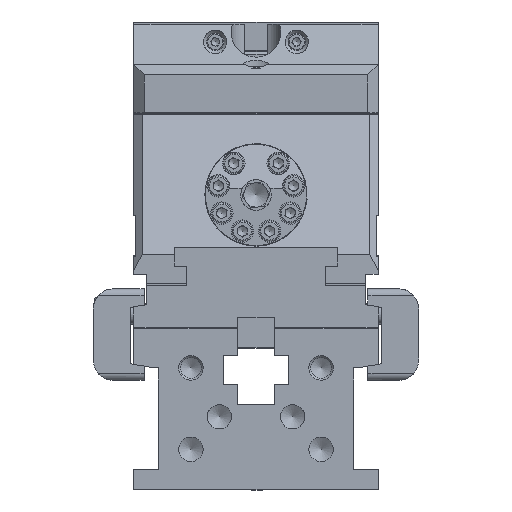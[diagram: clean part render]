
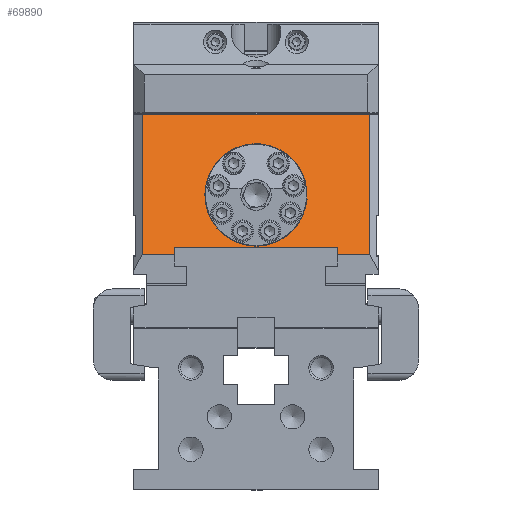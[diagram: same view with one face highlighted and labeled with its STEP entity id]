
A CAD part, left-side view. The second image highlights one B-rep face of the part: STEP entity #69890.
In plain terms, the highlighted planar face has unit normal (-0.866, 0, 0.5).
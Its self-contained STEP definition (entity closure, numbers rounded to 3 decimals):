
#65784=CARTESIAN_POINT('',(-147.276,0.,119.85));
#65785=VERTEX_POINT('',#65784);
#65786=CARTESIAN_POINT('',(-147.276,0.,119.85));
#65787=CARTESIAN_POINT('',(-147.276,50.3,119.85));
#65788=CARTESIAN_POINT('',(-118.236,50.3,170.15));
#65789=CARTESIAN_POINT('',(-118.236,0.,170.15));
#65790=CARTESIAN_POINT('',(-118.236,-50.3,170.15));
#65791=CARTESIAN_POINT('',(-147.276,-50.3,119.85));
#65792=CARTESIAN_POINT('',(-147.276,0.,119.85));
#65800=(BOUNDED_CURVE()B_SPLINE_CURVE(3,(#65786,#65787,#65788,#65789,#65790,#65791,#65792),.UNSPECIFIED.,.T.,.U.)B_SPLINE_CURVE_WITH_KNOTS((4,3,4),(0.0,0.5,1.0),.UNSPECIFIED.)CURVE()GEOMETRIC_REPRESENTATION_ITEM()RATIONAL_B_SPLINE_CURVE((1.0,0.333,0.333,1.0,0.333,0.333,1.0))REPRESENTATION_ITEM(''));
#65801=EDGE_CURVE('',#65785,#65785,#65800,.T.);
#66955=CARTESIAN_POINT('',(-109.918,-56.,184.556));
#66956=VERTEX_POINT('',#66955);
#66963=CARTESIAN_POINT('',(-149.662,-56.,115.718));
#66964=VERTEX_POINT('',#66963);
#66965=CARTESIAN_POINT('',(-149.662,-56.,115.718));
#66966=DIRECTION('',(0.5,0.,0.866));
#66967=VECTOR('',#66966,1.);
#66968=LINE('',#66965,#66967);
#66969=EDGE_CURVE('',#66964,#66956,#66968,.T.);
#69543=CARTESIAN_POINT('',(-147.767,-20.,119.));
#69544=VERTEX_POINT('',#69543);
#69545=CARTESIAN_POINT('',(-147.767,-40.,119.));
#69546=VERTEX_POINT('',#69545);
#69547=CARTESIAN_POINT('',(-147.767,-20.,119.));
#69548=DIRECTION('',(0.,-1.0,0.0));
#69549=VECTOR('',#69548,1.0);
#69550=LINE('',#69547,#69549);
#69551=EDGE_CURVE('',#69544,#69546,#69550,.T.);
#69574=CARTESIAN_POINT('',(-149.662,40.,115.718));
#69575=VERTEX_POINT('',#69574);
#69576=CARTESIAN_POINT('',(-149.662,56.,115.718));
#69577=VERTEX_POINT('',#69576);
#69578=CARTESIAN_POINT('',(-149.662,40.,115.718));
#69579=DIRECTION('',(0.0,1.0,0.0));
#69580=VECTOR('',#69579,1.0);
#69581=LINE('',#69578,#69580);
#69582=EDGE_CURVE('',#69575,#69577,#69581,.T.);
#69656=CARTESIAN_POINT('',(-149.662,-40.,115.718));
#69657=VERTEX_POINT('',#69656);
#69658=CARTESIAN_POINT('',(-149.662,-56.,115.718));
#69659=DIRECTION('',(0.0,1.0,0.0));
#69660=VECTOR('',#69659,1.0);
#69661=LINE('',#69658,#69660);
#69662=EDGE_CURVE('',#66964,#69657,#69661,.T.);
#69818=CARTESIAN_POINT('',(-151.649,61.6,112.276));
#69819=DIRECTION('',(0.866,0.,-0.5));
#69820=DIRECTION('',(0.5,0.,0.866));
#69821=AXIS2_PLACEMENT_3D('',#69818,#69819,#69820);
#69822=PLANE('',#69821);
#69823=ORIENTED_EDGE('',*,*,#69662,.F.);
#69824=ORIENTED_EDGE('',*,*,#66969,.T.);
#69825=CARTESIAN_POINT('',(-109.918,56.,184.556));
#69826=VERTEX_POINT('',#69825);
#69827=CARTESIAN_POINT('',(-109.918,-56.,184.556));
#69828=DIRECTION('',(0.0,1.0,0.0));
#69829=VECTOR('',#69828,1.0);
#69830=LINE('',#69827,#69829);
#69831=EDGE_CURVE('',#66956,#69826,#69830,.T.);
#69832=ORIENTED_EDGE('',*,*,#69831,.T.);
#69833=CARTESIAN_POINT('',(-109.918,56.,184.556));
#69834=DIRECTION('',(-0.5,0.,-0.866));
#69835=VECTOR('',#69834,1.);
#69836=LINE('',#69833,#69835);
#69837=EDGE_CURVE('',#69826,#69577,#69836,.T.);
#69838=ORIENTED_EDGE('',*,*,#69837,.T.);
#69839=ORIENTED_EDGE('',*,*,#69582,.F.);
#69840=CARTESIAN_POINT('',(-147.767,40.,119.));
#69841=VERTEX_POINT('',#69840);
#69842=CARTESIAN_POINT('',(-149.662,40.,115.718));
#69843=DIRECTION('',(0.5,0.,0.866));
#69844=VECTOR('',#69843,1.);
#69845=LINE('',#69842,#69844);
#69846=EDGE_CURVE('',#69575,#69841,#69845,.T.);
#69847=ORIENTED_EDGE('',*,*,#69846,.T.);
#69848=CARTESIAN_POINT('',(-147.767,20.,119.));
#69849=VERTEX_POINT('',#69848);
#69850=CARTESIAN_POINT('',(-147.767,40.,119.));
#69851=DIRECTION('',(0.0,-1.0,0.0));
#69852=VECTOR('',#69851,1.0);
#69853=LINE('',#69850,#69852);
#69854=EDGE_CURVE('',#69841,#69849,#69853,.T.);
#69855=ORIENTED_EDGE('',*,*,#69854,.T.);
#69856=CARTESIAN_POINT('',(-147.594,20.,119.3));
#69857=VERTEX_POINT('',#69856);
#69858=CARTESIAN_POINT('',(-147.767,20.,119.));
#69859=DIRECTION('',(0.5,0.,0.866));
#69860=VECTOR('',#69859,1.);
#69861=LINE('',#69858,#69860);
#69862=EDGE_CURVE('',#69849,#69857,#69861,.T.);
#69863=ORIENTED_EDGE('',*,*,#69862,.T.);
#69864=CARTESIAN_POINT('',(-147.594,-20.,119.3));
#69865=VERTEX_POINT('',#69864);
#69866=CARTESIAN_POINT('',(-147.594,-20.,119.3));
#69867=DIRECTION('',(0.0,1.0,0.0));
#69868=VECTOR('',#69867,1.0);
#69869=LINE('',#69866,#69868);
#69870=EDGE_CURVE('',#69865,#69857,#69869,.T.);
#69871=ORIENTED_EDGE('',*,*,#69870,.F.);
#69872=CARTESIAN_POINT('',(-147.594,-20.,119.3));
#69873=DIRECTION('',(-0.5,0.,-0.866));
#69874=VECTOR('',#69873,1.);
#69875=LINE('',#69872,#69874);
#69876=EDGE_CURVE('',#69865,#69544,#69875,.T.);
#69877=ORIENTED_EDGE('',*,*,#69876,.T.);
#69878=ORIENTED_EDGE('',*,*,#69551,.T.);
#69879=CARTESIAN_POINT('',(-147.767,-40.,119.));
#69880=DIRECTION('',(-0.5,0.,-0.866));
#69881=VECTOR('',#69880,1.);
#69882=LINE('',#69879,#69881);
#69883=EDGE_CURVE('',#69546,#69657,#69882,.T.);
#69884=ORIENTED_EDGE('',*,*,#69883,.T.);
#69885=EDGE_LOOP('',(#69823,#69824,#69832,#69838,#69839,#69847,#69855,#69863,#69871,#69877,#69878,#69884));
#69886=FACE_OUTER_BOUND('',#69885,.T.);
#69887=ORIENTED_EDGE('',*,*,#65801,.T.);
#69888=EDGE_LOOP('',(#69887));
#69889=FACE_BOUND('',#69888,.T.);
#69890=ADVANCED_FACE('',(#69886,#69889),#69822,.F.);
